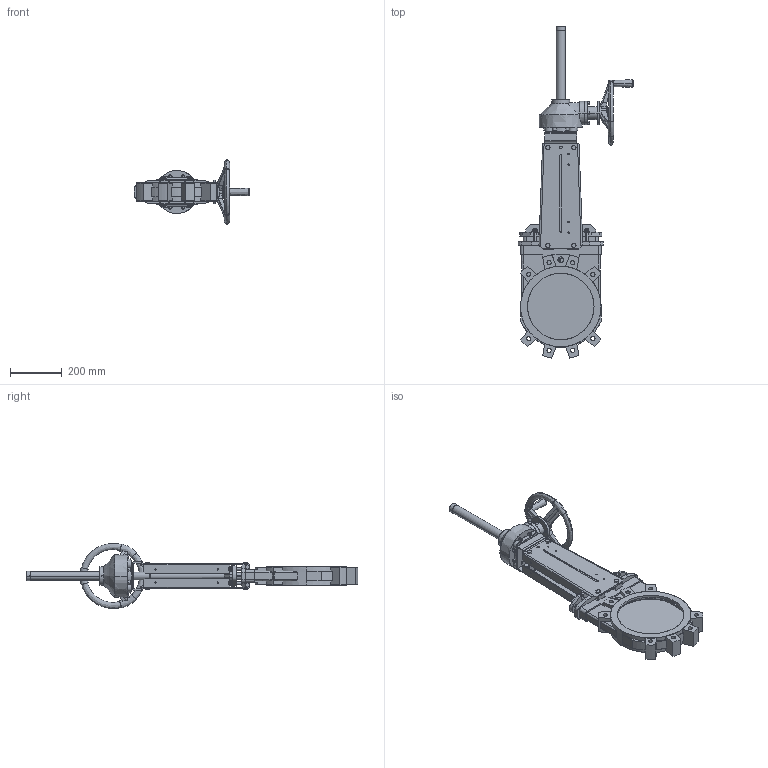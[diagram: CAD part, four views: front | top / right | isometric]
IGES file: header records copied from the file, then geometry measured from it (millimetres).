
Start section: SolidWorks IGES file using analytic representation for surfaces
Global section: file name: D:\part\3D Projects\VG-GEAR BOX ACTUATOR(DN50-DN6000\VG G DN250\VG G DN250.IGS; native system: SolidWorks 2009; preprocessor: SolidWorks 2009; author: zhixin.zheng; date: 100422.170330; units: millimetre
Bounding box: 443 x 1278.12 x 249.62 mm (x, y, z)
Surface area: 1222830.6 mm2 (no closed solid volume)
Topology: 0 solids, 0 shells, 1056 faces, 11782 edges, 11781 vertices
Faces by surface type: bspline 657, revolution 399
